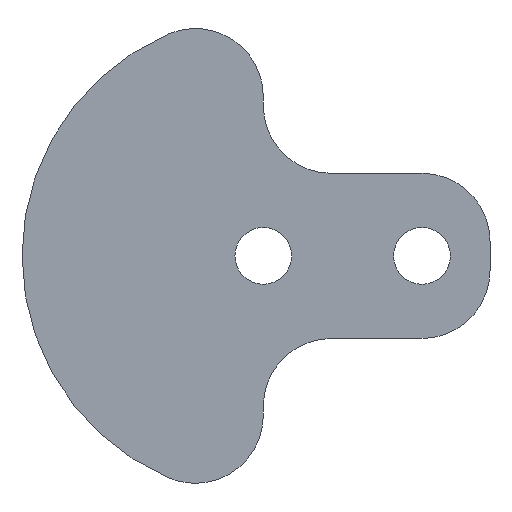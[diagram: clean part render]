
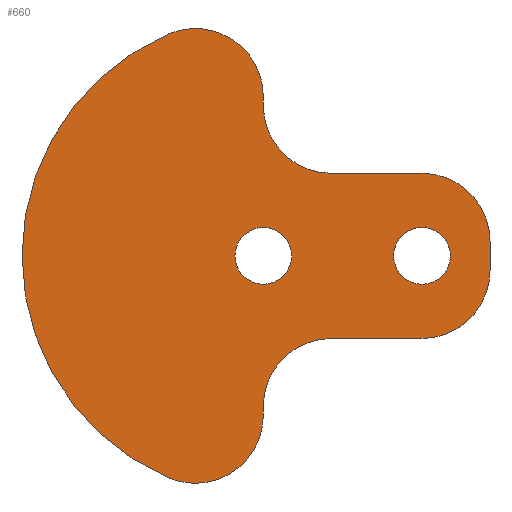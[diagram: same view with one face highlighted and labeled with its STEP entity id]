
A CAD part, front view. The second image highlights one B-rep face of the part: STEP entity #660.
In plain terms, the highlighted planar face has unit normal (0, -1, 0).
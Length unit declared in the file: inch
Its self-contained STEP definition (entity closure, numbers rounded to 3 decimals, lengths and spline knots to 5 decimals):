
#6 = EDGE_CURVE ( 'NONE', #397, #425, #500, .T. ) ;
#9 = EDGE_CURVE ( 'NONE', #407, #396, #524, .T. ) ;
#11 = EDGE_CURVE ( 'NONE', #432, #398, #519, .T. ) ;
#12 = EDGE_CURVE ( 'NONE', #396, #407, #523, .T. ) ;
#14 = EDGE_CURVE ( 'NONE', #371, #373, #511, .T. ) ;
#17 = EDGE_CURVE ( 'NONE', #422, #372, #554, .T. ) ;
#26 = EDGE_CURVE ( 'NONE', #383, #397, #520, .T. ) ;
#28 = EDGE_CURVE ( 'NONE', #398, #383, #536, .T. ) ;
#29 = EDGE_CURVE ( 'NONE', #373, #432, #544, .T. ) ;
#31 = AXIS2_PLACEMENT_3D ( 'NONE', #147, #120, #129 ) ;
#33 = AXIS2_PLACEMENT_3D ( 'NONE', #226, #219, #222 ) ;
#36 = EDGE_CURVE ( 'NONE', #408, #392, #598, .T. ) ;
#42 = AXIS2_PLACEMENT_3D ( 'NONE', #209, #221, #210 ) ;
#45 = AXIS2_PLACEMENT_3D ( 'NONE', #133, #118, #123 ) ;
#46 = AXIS2_PLACEMENT_3D ( 'NONE', #204, #205, #207 ) ;
#47 = AXIS2_PLACEMENT_3D ( 'NONE', #224, #225, #229 ) ;
#49 = EDGE_CURVE ( 'NONE', #425, #395, #566, .T. ) ;
#51 = AXIS2_PLACEMENT_3D ( 'NONE', #132, #122, #153 ) ;
#52 = AXIS2_PLACEMENT_3D ( 'NONE', #157, #146, #143 ) ;
#55 = EDGE_CURVE ( 'NONE', #372, #422, #568, .T. ) ;
#56 = AXIS2_PLACEMENT_3D ( 'NONE', #126, #144, #136 ) ;
#58 = EDGE_CURVE ( 'NONE', #380, #391, #588, .T. ) ;
#71 = EDGE_CURVE ( 'NONE', #392, #406, #591, .T. ) ;
#76 = EDGE_CURVE ( 'NONE', #395, #380, #580, .T. ) ;
#77 = AXIS2_PLACEMENT_3D ( 'NONE', #184, #163, #170 ) ;
#80 = AXIS2_PLACEMENT_3D ( 'NONE', #173, #182, #181 ) ;
#84 = EDGE_CURVE ( 'NONE', #391, #408, #608, .T. ) ;
#86 = EDGE_CURVE ( 'NONE', #406, #371, #581, .T. ) ;
#87 = AXIS2_PLACEMENT_3D ( 'NONE', #131, #151, #127 ) ;
#90 = AXIS2_PLACEMENT_3D ( 'NONE', #317, #316, #297 ) ;
#118 = DIRECTION ( 'NONE',  ( 0., 1., 0. ) ) ;
#120 = DIRECTION ( 'NONE',  ( 0., 1., 0. ) ) ;
#122 = DIRECTION ( 'NONE',  ( 0., -1., 0. ) ) ;
#123 = DIRECTION ( 'NONE',  ( 0., 0., 1. ) ) ;
#126 = CARTESIAN_POINT ( 'NONE',  ( 0., 0., 0. ) ) ;
#127 = DIRECTION ( 'NONE',  ( 0., 0., -1. ) ) ;
#129 = DIRECTION ( 'NONE',  ( 0., 0., 1. ) ) ;
#131 = CARTESIAN_POINT ( 'NONE',  ( -0.3, 0., -0.70295 ) ) ;
#132 = CARTESIAN_POINT ( 'NONE',  ( 0.3, 0., 0.66429 ) ) ;
#133 = CARTESIAN_POINT ( 'NONE',  ( 0., 0., 0. ) ) ;
#136 = DIRECTION ( 'NONE',  ( 0., 0., -1. ) ) ;
#143 = DIRECTION ( 'NONE',  ( 0., 0., 1. ) ) ;
#144 = DIRECTION ( 'NONE',  ( 0., 1., 0. ) ) ;
#146 = DIRECTION ( 'NONE',  ( 0., 1., 0. ) ) ;
#147 = CARTESIAN_POINT ( 'NONE',  ( 0.7, 0., 0. ) ) ;
#151 = DIRECTION ( 'NONE',  ( 0., 1., 0. ) ) ;
#153 = DIRECTION ( 'NONE',  ( 0., 0., 1. ) ) ;
#157 = CARTESIAN_POINT ( 'NONE',  ( 0., 0., 0. ) ) ;
#159 = CARTESIAN_POINT ( 'NONE',  ( 0., 0., 0.66429 ) ) ;
#163 = DIRECTION ( 'NONE',  ( 0., 1., 0. ) ) ;
#166 = CARTESIAN_POINT ( 'NONE',  ( 0.3, 0., -0.36429 ) ) ;
#168 = DIRECTION ( 'NONE',  ( -1., 0., 0. ) ) ;
#170 = DIRECTION ( 'NONE',  ( 0., 0., -1. ) ) ;
#173 = CARTESIAN_POINT ( 'NONE',  ( -0.3, 0., 0.70295 ) ) ;
#181 = DIRECTION ( 'NONE',  ( 0., 0., 1. ) ) ;
#182 = DIRECTION ( 'NONE',  ( 0., 1., 0. ) ) ;
#184 = CARTESIAN_POINT ( 'NONE',  ( -0.3, 0., -0.70295 ) ) ;
#191 = CARTESIAN_POINT ( 'NONE',  ( 0.7, 0., 0.36429 ) ) ;
#195 = DIRECTION ( 'NONE',  ( 1., 0., 0. ) ) ;
#198 = DIRECTION ( 'NONE',  ( 0., 0., -1. ) ) ;
#204 = CARTESIAN_POINT ( 'NONE',  ( 0.3, 0., -0.66429 ) ) ;
#205 = DIRECTION ( 'NONE',  ( 0., -1., 0. ) ) ;
#207 = DIRECTION ( 'NONE',  ( 0., 0., 1. ) ) ;
#209 = CARTESIAN_POINT ( 'NONE',  ( 0.7, 0., 0.06429 ) ) ;
#210 = DIRECTION ( 'NONE',  ( 0., 0., -1. ) ) ;
#213 = CARTESIAN_POINT ( 'NONE',  ( 0., 0., -0.70295 ) ) ;
#214 = CARTESIAN_POINT ( 'NONE',  ( 0.7, 0., 0.125 ) ) ;
#215 = DIRECTION ( 'NONE',  ( 0., 0., -1. ) ) ;
#218 = CARTESIAN_POINT ( 'NONE',  ( 1., 0., -0.06429 ) ) ;
#219 = DIRECTION ( 'NONE',  ( 0., 1., 0. ) ) ;
#221 = DIRECTION ( 'NONE',  ( 0., 1., 0. ) ) ;
#222 = DIRECTION ( 'NONE',  ( 0., 0., 1. ) ) ;
#224 = CARTESIAN_POINT ( 'NONE',  ( 0.7, 0., -0.06429 ) ) ;
#225 = DIRECTION ( 'NONE',  ( 0., 1., 0. ) ) ;
#226 = CARTESIAN_POINT ( 'NONE',  ( 0.7, 0., 0. ) ) ;
#228 = CARTESIAN_POINT ( 'NONE',  ( -0.3, 0., -1.00295 ) ) ;
#229 = DIRECTION ( 'NONE',  ( 0., 0., -1. ) ) ;
#234 = DIRECTION ( 'NONE',  ( 0., 0., -1. ) ) ;
#235 = CARTESIAN_POINT ( 'NONE',  ( 0., 0., -0.70295 ) ) ;
#241 = CARTESIAN_POINT ( 'NONE',  ( 1., 0., 0.06429 ) ) ;
#246 = CARTESIAN_POINT ( 'NONE',  ( 0., 0., 0.125 ) ) ;
#251 = CARTESIAN_POINT ( 'NONE',  ( 0.7, 0., -0.36429 ) ) ;
#253 = CARTESIAN_POINT ( 'NONE',  ( -0.41776, 0., 0.97887 ) ) ;
#254 = CARTESIAN_POINT ( 'NONE',  ( 0.7, 0., -0.125 ) ) ;
#259 = CARTESIAN_POINT ( 'NONE',  ( 0., 0., 0.70295 ) ) ;
#260 = CARTESIAN_POINT ( 'NONE',  ( 0., 0., -0.66429 ) ) ;
#265 = CARTESIAN_POINT ( 'NONE',  ( 0., 0., -0.125 ) ) ;
#267 = CARTESIAN_POINT ( 'NONE',  ( -0.41776, 0., -0.97887 ) ) ;
#279 = CARTESIAN_POINT ( 'NONE',  ( 0.7, 0., 0.36429 ) ) ;
#280 = CARTESIAN_POINT ( 'NONE',  ( 0.3, 0., -0.36429 ) ) ;
#284 = CARTESIAN_POINT ( 'NONE',  ( 0.3, 0., 0.36429 ) ) ;
#286 = CARTESIAN_POINT ( 'NONE',  ( 1., 0., -0.06429 ) ) ;
#294 = CARTESIAN_POINT ( 'NONE',  ( 0., 0., 0.66429 ) ) ;
#297 = DIRECTION ( 'NONE',  ( 0., 0., 1. ) ) ;
#315 = PLANE ( 'NONE',  #90 ) ;
#316 = DIRECTION ( 'NONE',  ( 0., 1., 0. ) ) ;
#317 = CARTESIAN_POINT ( 'NONE',  ( 0.3, 0., 0.66429 ) ) ;
#360 = EDGE_LOOP ( 'NONE', ( #466, #490, #497, #444, #495, #470, #475, #461, #496, #449, #434, #465, #472 ) ) ;
#364 = EDGE_LOOP ( 'NONE', ( #454, #494 ) ) ;
#371 = VERTEX_POINT ( 'NONE', #235 ) ;
#372 = VERTEX_POINT ( 'NONE', #214 ) ;
#373 = VERTEX_POINT ( 'NONE', #228 ) ;
#380 = VERTEX_POINT ( 'NONE', #241 ) ;
#383 = VERTEX_POINT ( 'NONE', #259 ) ;
#384 = EDGE_LOOP ( 'NONE', ( #473, #437 ) ) ;
#391 = VERTEX_POINT ( 'NONE', #286 ) ;
#392 = VERTEX_POINT ( 'NONE', #280 ) ;
#395 = VERTEX_POINT ( 'NONE', #279 ) ;
#396 = VERTEX_POINT ( 'NONE', #265 ) ;
#397 = VERTEX_POINT ( 'NONE', #294 ) ;
#398 = VERTEX_POINT ( 'NONE', #253 ) ;
#406 = VERTEX_POINT ( 'NONE', #260 ) ;
#407 = VERTEX_POINT ( 'NONE', #246 ) ;
#408 = VERTEX_POINT ( 'NONE', #251 ) ;
#422 = VERTEX_POINT ( 'NONE', #254 ) ;
#425 = VERTEX_POINT ( 'NONE', #284 ) ;
#432 = VERTEX_POINT ( 'NONE', #267 ) ;
#434 = ORIENTED_EDGE ( 'NONE', *, *, #58, .F. ) ;
#437 = ORIENTED_EDGE ( 'NONE', *, *, #55, .T. ) ;
#444 = ORIENTED_EDGE ( 'NONE', *, *, #11, .F. ) ;
#449 = ORIENTED_EDGE ( 'NONE', *, *, #84, .F. ) ;
#454 = ORIENTED_EDGE ( 'NONE', *, *, #12, .T. ) ;
#461 = ORIENTED_EDGE ( 'NONE', *, *, #71, .F. ) ;
#465 = ORIENTED_EDGE ( 'NONE', *, *, #76, .F. ) ;
#466 = ORIENTED_EDGE ( 'NONE', *, *, #6, .F. ) ;
#470 = ORIENTED_EDGE ( 'NONE', *, *, #14, .F. ) ;
#472 = ORIENTED_EDGE ( 'NONE', *, *, #49, .F. ) ;
#473 = ORIENTED_EDGE ( 'NONE', *, *, #17, .T. ) ;
#475 = ORIENTED_EDGE ( 'NONE', *, *, #86, .F. ) ;
#490 = ORIENTED_EDGE ( 'NONE', *, *, #26, .F. ) ;
#494 = ORIENTED_EDGE ( 'NONE', *, *, #9, .T. ) ;
#495 = ORIENTED_EDGE ( 'NONE', *, *, #29, .F. ) ;
#496 = ORIENTED_EDGE ( 'NONE', *, *, #36, .F. ) ;
#497 = ORIENTED_EDGE ( 'NONE', *, *, #28, .F. ) ;
#500 = CIRCLE ( 'NONE', #51, 0.3 ) ;
#506 = VECTOR ( 'NONE', #198, 39.37008 ) ;
#511 = CIRCLE ( 'NONE', #87, 0.3 ) ;
#519 = CIRCLE ( 'NONE', #56, 1.06429 ) ;
#520 = LINE ( 'NONE', #159, #506 ) ;
#523 = CIRCLE ( 'NONE', #52, 0.125 ) ;
#524 = CIRCLE ( 'NONE', #45, 0.125 ) ;
#536 = CIRCLE ( 'NONE', #80, 0.3 ) ;
#544 = CIRCLE ( 'NONE', #77, 0.3 ) ;
#554 = CIRCLE ( 'NONE', #31, 0.125 ) ;
#562 = VECTOR ( 'NONE', #195, 39.37008 ) ;
#565 = VECTOR ( 'NONE', #168, 39.37008 ) ;
#566 = LINE ( 'NONE', #191, #562 ) ;
#568 = CIRCLE ( 'NONE', #33, 0.125 ) ;
#580 = CIRCLE ( 'NONE', #42, 0.3 ) ;
#581 = LINE ( 'NONE', #213, #592 ) ;
#588 = LINE ( 'NONE', #218, #599 ) ;
#591 = CIRCLE ( 'NONE', #46, 0.3 ) ;
#592 = VECTOR ( 'NONE', #234, 39.37008 ) ;
#598 = LINE ( 'NONE', #166, #565 ) ;
#599 = VECTOR ( 'NONE', #215, 39.37008 ) ;
#608 = CIRCLE ( 'NONE', #47, 0.3 ) ;
#618 = FACE_BOUND ( 'NONE', #384, .T. ) ;
#625 = FACE_OUTER_BOUND ( 'NONE', #360, .T. ) ;
#641 = FACE_BOUND ( 'NONE', #364, .T. ) ;
#660 = ADVANCED_FACE ( 'NONE', ( #641, #625, #618 ), #315, .F. ) ;
